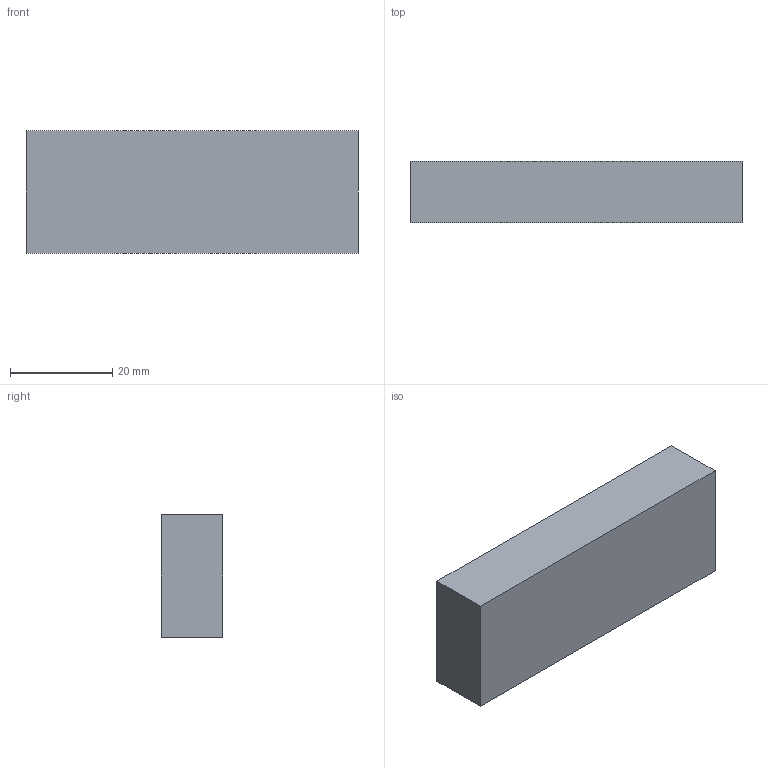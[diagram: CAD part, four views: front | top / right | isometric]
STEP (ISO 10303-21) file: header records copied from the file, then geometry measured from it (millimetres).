
FILE_DESCRIPTION(('Open CASCADE Model'),'2;1');
FILE_NAME('Open CASCADE Shape Model','2026-10-10T15:34:57',('Author'),( 'Open CASCADE'),'Open CASCADE STEP processor 7.9','Open CASCADE 7.9' ,'Unknown');
FILE_SCHEMA(('AUTOMOTIVE_DESIGN { 1 0 10303 214 1 1 1 1 }'));
Length unit declared in the file: millimetre
Products named in the file (1): Open CASCADE STEP translator 7.9 21
Bounding box: 65 x 12 x 24 mm (x, y, z)
Volume: 18720 mm3; surface area: 5256 mm2
Topology: 1 solids, 1 shells, 6 faces, 12 edges, 8 vertices
Faces by surface type: plane 6
Entity records: 322 total; most frequent: CARTESIAN_POINT 51, DIRECTION 50, LINE 36, VECTOR 36, ORIENTED_EDGE 24, PCURVE 24, DEFINITIONAL_REPRESENTATION 24, EDGE_CURVE 12
